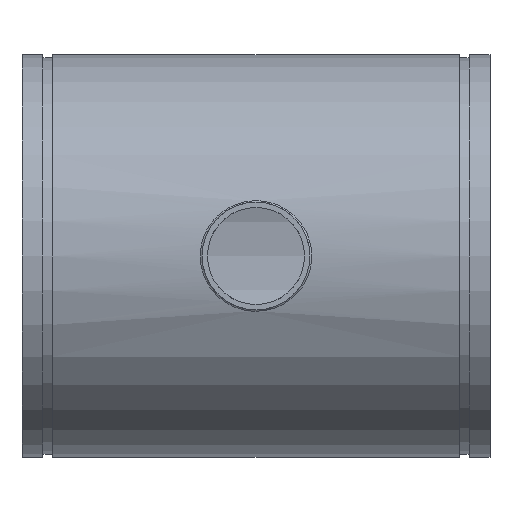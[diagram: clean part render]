
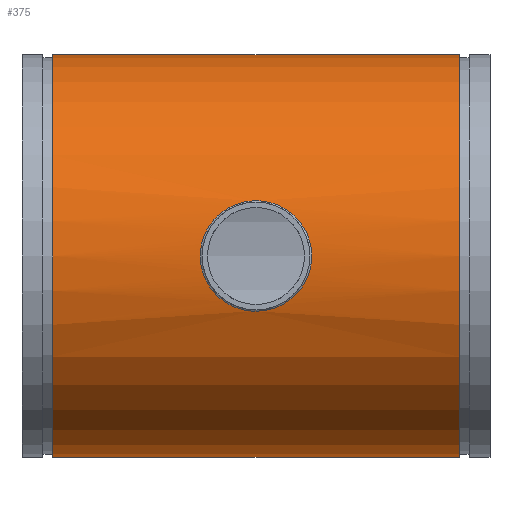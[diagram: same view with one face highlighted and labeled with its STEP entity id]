
A CAD part, front view. The second image highlights one B-rep face of the part: STEP entity #375.
In plain terms, the highlighted cylindrical face has radius 327.66 mm (diameter 655.32 mm), a full revolution.
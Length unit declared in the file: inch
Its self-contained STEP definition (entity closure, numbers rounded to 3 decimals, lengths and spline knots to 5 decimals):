
#54=FACE_BOUND('',#119,.T.);
#65=LINE('',#798,#76);
#76=VECTOR('',#483,12.9);
#87=CYLINDRICAL_SURFACE('',#415,12.9);
#98=FACE_OUTER_BOUND('',#118,.T.);
#118=EDGE_LOOP('',(#266,#267,#268,#269));
#119=EDGE_LOOP('',(#270));
#150=B_SPLINE_CURVE_WITH_KNOTS('',3,(#769,#770,#771,#772,#773,#774,#775,
#776,#777,#778,#779,#780,#781,#782,#783,#784,#785,#786,#787,#788,#789,#790,
#791,#792,#793),.UNSPECIFIED.,.T.,.F.,(4,1,1,1,1,1,1,1,1,1,1,1,1,1,1,1,
1,1,1,1,1,1,4),(-53.09417,-51.19795,-49.30173,-45.50929,
-42.981,-40.4527,-37.92441,-35.39611,
-32.86782,-30.33953,-27.81123,-25.28294,
-22.75465,-20.22635,-17.69806,-15.16976,
-13.90562,-12.64147,-10.11318,-7.58488,
-3.79244,-1.89622,0.),.UNSPECIFIED.);
#154=CIRCLE('',#416,12.9);
#155=CIRCLE('',#417,12.9);
#182=VERTEX_POINT('',#736);
#185=VERTEX_POINT('',#795);
#186=VERTEX_POINT('',#797);
#219=EDGE_CURVE('',#182,#182,#150,.T.);
#220=EDGE_CURVE('',#185,#185,#154,.T.);
#221=EDGE_CURVE('',#185,#186,#65,.T.);
#222=EDGE_CURVE('',#186,#186,#155,.T.);
#266=ORIENTED_EDGE('',*,*,#220,.T.);
#267=ORIENTED_EDGE('',*,*,#221,.T.);
#268=ORIENTED_EDGE('',*,*,#222,.T.);
#269=ORIENTED_EDGE('',*,*,#221,.F.);
#270=ORIENTED_EDGE('',*,*,#219,.F.);
#375=ADVANCED_FACE('',(#98,#54),#87,.T.);
#415=AXIS2_PLACEMENT_3D('',#794,#479,#480);
#416=AXIS2_PLACEMENT_3D('',#796,#481,#482);
#417=AXIS2_PLACEMENT_3D('',#799,#484,#485);
#479=DIRECTION('center_axis',(-1.,0.,0.));
#480=DIRECTION('ref_axis',(0.,-1.,0.));
#481=DIRECTION('center_axis',(1.,0.,0.));
#482=DIRECTION('ref_axis',(0.,-1.,0.));
#483=DIRECTION('',(1.,0.,0.));
#484=DIRECTION('center_axis',(-1.,0.,0.));
#485=DIRECTION('ref_axis',(0.,-1.,0.));
#736=CARTESIAN_POINT('',(0.,-12.40458,-3.54069));
#769=CARTESIAN_POINT('Ctrl Pts',(0.,-12.40458,-3.54069));
#770=CARTESIAN_POINT('Ctrl Pts',(0.26871,-12.40458,-3.54069));
#771=CARTESIAN_POINT('Ctrl Pts',(0.80591,-12.42207,-3.48023));
#772=CARTESIAN_POINT('Ctrl Pts',(1.82305,-12.51875,-3.12666));
#773=CARTESIAN_POINT('Ctrl Pts',(2.74518,-12.69078,-2.39679));
#774=CARTESIAN_POINT('Ctrl Pts',(3.37577,-12.84562,-1.31814));
#775=CARTESIAN_POINT('Ctrl Pts',(3.61926,-12.91223,-0.27034));
#776=CARTESIAN_POINT('Ctrl Pts',(3.53718,-12.88932,0.80412));
#777=CARTESIAN_POINT('Ctrl Pts',(3.13985,-12.78505,1.80108));
#778=CARTESIAN_POINT('Ctrl Pts',(2.46811,-12.63547,2.63372));
#779=CARTESIAN_POINT('Ctrl Pts',(1.57925,-12.49055,3.23557));
#780=CARTESIAN_POINT('Ctrl Pts',(0.54411,-12.4009,3.5539));
#781=CARTESIAN_POINT('Ctrl Pts',(-0.54409,-12.4009,3.55389));
#782=CARTESIAN_POINT('Ctrl Pts',(-1.57924,-12.49058,3.23556));
#783=CARTESIAN_POINT('Ctrl Pts',(-2.46813,-12.63546,2.63368));
#784=CARTESIAN_POINT('Ctrl Pts',(-3.13987,-12.78509,1.80111));
#785=CARTESIAN_POINT('Ctrl Pts',(-3.47096,-12.8719,0.97024));
#786=CARTESIAN_POINT('Ctrl Pts',(-3.57824,-12.90083,0.26694));
#787=CARTESIAN_POINT('Ctrl Pts',(-3.57864,-12.90108,-0.445));
#788=CARTESIAN_POINT('Ctrl Pts',(-3.3758,-12.84565,-1.31812));
#789=CARTESIAN_POINT('Ctrl Pts',(-2.74513,-12.69075,-2.39685));
#790=CARTESIAN_POINT('Ctrl Pts',(-1.82305,-12.51876,-3.12665));
#791=CARTESIAN_POINT('Ctrl Pts',(-0.8059,-12.42206,-3.48023));
#792=CARTESIAN_POINT('Ctrl Pts',(-0.26871,-12.40458,-3.54069));
#793=CARTESIAN_POINT('Ctrl Pts',(0.,-12.40458,
-3.54069));
#794=CARTESIAN_POINT('Origin',(15.,0.,0.));
#795=CARTESIAN_POINT('',(-13.035,12.9,0.));
#796=CARTESIAN_POINT('Origin',(-13.035,0.,0.));
#797=CARTESIAN_POINT('',(13.035,12.9,0.));
#798=CARTESIAN_POINT('',(15.,12.9,0.));
#799=CARTESIAN_POINT('Origin',(13.035,0.,0.));
